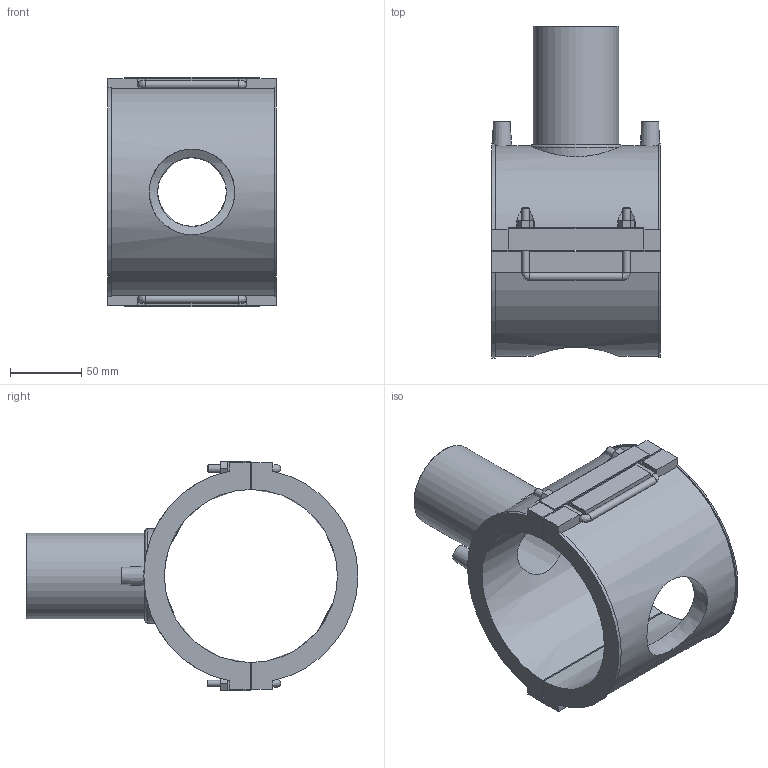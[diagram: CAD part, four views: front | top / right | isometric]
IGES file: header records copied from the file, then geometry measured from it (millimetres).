
Global section: file name: 5958DB03040020.ipt; native system: Autodesk Inventor 2019; preprocessor: unknown; author: KIM; date: 20210830.101313; units: inch
Bounding box: 118.11 x 232.75 x 161 mm (x, y, z)
Volume: 737780.9 mm3; surface area: 165437.2 mm2
Topology: 4 solids, 4 shells, 174 faces, 447 edges, 293 vertices
Faces by surface type: plane 121, revolution 27, cylinder 21, cone 5
Full cylindrical faces by diameter (mm): 4 x2, 4.2 x2, 5.4 x6, 60.1 x1
